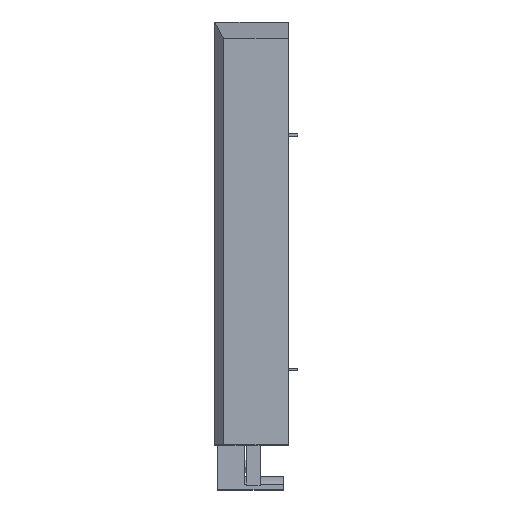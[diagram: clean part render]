
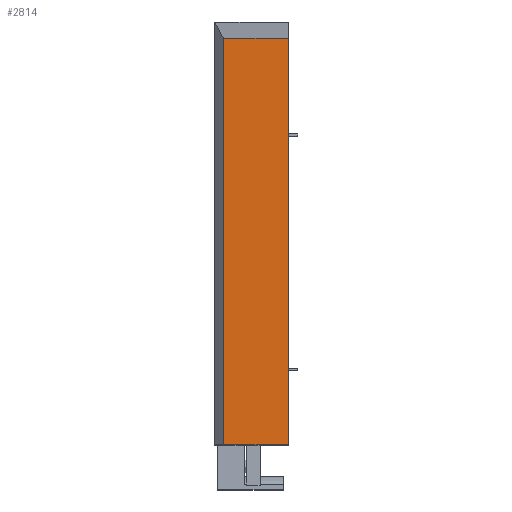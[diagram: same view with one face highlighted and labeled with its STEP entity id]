
A CAD part, top view. The second image highlights one B-rep face of the part: STEP entity #2814.
In plain terms, the highlighted planar face has unit normal (0, 0, 1).
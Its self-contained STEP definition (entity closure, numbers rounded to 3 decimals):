
#131 = DIRECTION ( 'NONE',  ( 1., 0., 0. ) ) ;
#202 = FACE_OUTER_BOUND ( 'NONE', #4008, .T. ) ;
#213 = DIRECTION ( 'NONE',  ( 1., 0., 0. ) ) ;
#479 = VERTEX_POINT ( 'NONE', #3371 ) ;
#501 = DIRECTION ( 'NONE',  ( 0., 1., 0. ) ) ;
#513 = CARTESIAN_POINT ( 'NONE',  ( -35.35, 213.029, 23.136 ) ) ;
#837 = LINE ( 'NONE', #2187, #3710 ) ;
#845 = EDGE_CURVE ( 'NONE', #3965, #3382, #837, .T. ) ;
#957 = VECTOR ( 'NONE', #131, 1000. ) ;
#1165 = AXIS2_PLACEMENT_3D ( 'NONE', #3469, #3169, #3752 ) ;
#1249 = LINE ( 'NONE', #2857, #3858 ) ;
#1310 = EDGE_CURVE ( 'NONE', #479, #2461, #2928, .T. ) ;
#1674 = ORIENTED_EDGE ( 'NONE', *, *, #1917, .T. ) ;
#1767 = LINE ( 'NONE', #2095, #957 ) ;
#1917 = EDGE_CURVE ( 'NONE', #3965, #2461, #1767, .T. ) ;
#2038 = CARTESIAN_POINT ( 'NONE',  ( -35.35, -9.2, 23.136 ) ) ;
#2095 = CARTESIAN_POINT ( 'NONE',  ( -40.35, -9.2, 23.136 ) ) ;
#2180 = ORIENTED_EDGE ( 'NONE', *, *, #1310, .F. ) ;
#2187 = CARTESIAN_POINT ( 'NONE',  ( -35.35, 213.029, 23.136 ) ) ;
#2214 = ORIENTED_EDGE ( 'NONE', *, *, #845, .F. ) ;
#2431 = CARTESIAN_POINT ( 'NONE',  ( 0., -9.2, 23.136 ) ) ;
#2461 = VERTEX_POINT ( 'NONE', #2431 ) ;
#2482 = PLANE ( 'NONE',  #1165 ) ;
#2814 = ADVANCED_FACE ( 'NONE', ( #202 ), #2482, .F. ) ;
#2857 = CARTESIAN_POINT ( 'NONE',  ( -40.35, 213.029, 23.136 ) ) ;
#2928 = LINE ( 'NONE', #3545, #3715 ) ;
#3169 = DIRECTION ( 'NONE',  ( 0., 0., -1. ) ) ;
#3187 = DIRECTION ( 'NONE',  ( 0., -1., 0. ) ) ;
#3371 = CARTESIAN_POINT ( 'NONE',  ( 0., 213.029, 23.136 ) ) ;
#3382 = VERTEX_POINT ( 'NONE', #513 ) ;
#3469 = CARTESIAN_POINT ( 'NONE',  ( -40.35, 0., 23.136 ) ) ;
#3545 = CARTESIAN_POINT ( 'NONE',  ( 0., 0., 23.136 ) ) ;
#3710 = VECTOR ( 'NONE', #501, 1000. ) ;
#3715 = VECTOR ( 'NONE', #3187, 1000. ) ;
#3752 = DIRECTION ( 'NONE',  ( 0., 1., 0. ) ) ;
#3858 = VECTOR ( 'NONE', #213, 1000. ) ;
#3900 = ORIENTED_EDGE ( 'NONE', *, *, #4188, .F. ) ;
#3965 = VERTEX_POINT ( 'NONE', #2038 ) ;
#4008 = EDGE_LOOP ( 'NONE', ( #1674, #2180, #3900, #2214 ) ) ;
#4188 = EDGE_CURVE ( 'NONE', #3382, #479, #1249, .T. ) ;
